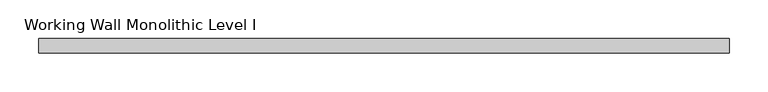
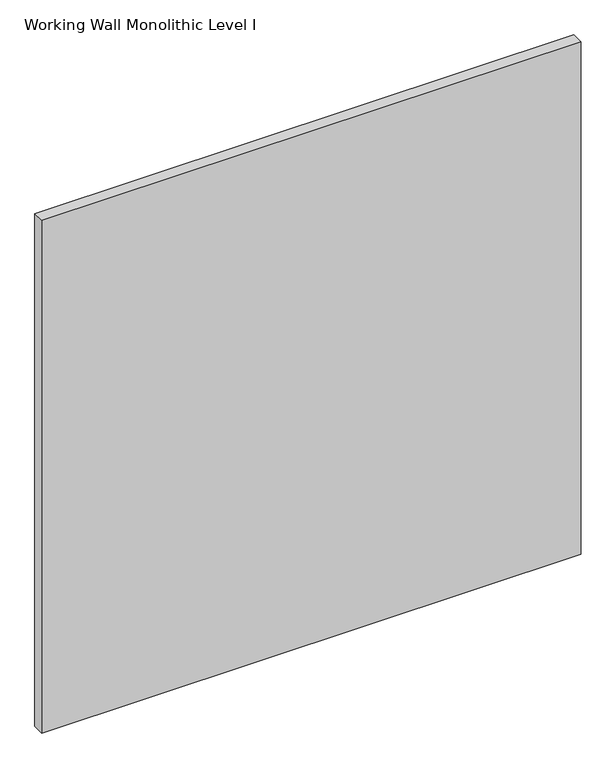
"""IFC4 building model written with IfcOpenShell, lengths in millimetres: proxy geometry, Panel-Fascia-Teknion-Altos-Standard : Working Wall Monolithic Level I."""

from ifc_helpers import new_model, si_unit, frame, origin, place, context, project, spatial, polyline, outline, extrude, source, transform, mapped, element, save


def working_wall_monolithic_level_i_53c92298(model_context):
    return source(origin(), model_context, "Body", "SweptSolid", [
        extrude(outline(polyline([(447.0300781, -9.525), (-447.0300781, -9.525), (-447.0300781, 9.525), (447.0300781, 9.525), (447.0300781, -9.525)])), frame((0.0, 0.0, 3.175), z_axis=(0.0, 0.0, 1.0), x_axis=(1.0, 0.0, 0.0)), (0.0, 0.0, 1.0), 898.525),
    ])


if __name__ == "__main__":
    model = new_model("IFC4")
    model_context = context("Model", 3, world=origin())
    ifc_project = project(units=[si_unit("LENGTHUNIT", "METRE", prefix="MILLI")], contexts=[model_context])
    site = spatial("IfcSite", under=ifc_project)
    building = spatial("IfcBuilding", under=site)
    placement = place(None, origin())
    working_wall_monolithic_level_i_shape = working_wall_monolithic_level_i_53c92298(model_context)
    element("IfcBuildingElementProxy", 1, Name="Panel-Fascia-Teknion-Altos-Standard : Working Wall Monolithic Level I", ObjectType="Panel-Fascia-Teknion-Altos-Standard : Working Wall Monolithic Level I", at=placement, inside=building, context=model_context, shape_type="MappedRepresentation", body=[
        mapped(working_wall_monolithic_level_i_shape, transform((0.0, 0.0, 0.0), x_axis=(1.0, 0.0, 0.0), y_axis=(0.0, 1.0, 0.0), z_axis=(0.0, 0.0, 1.0))),
    ])
    save(model, "model.ifc")
